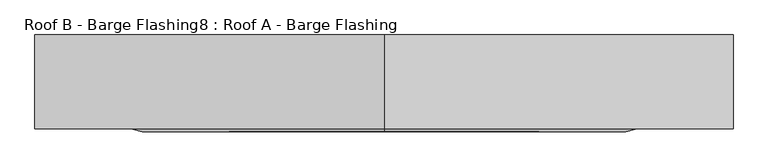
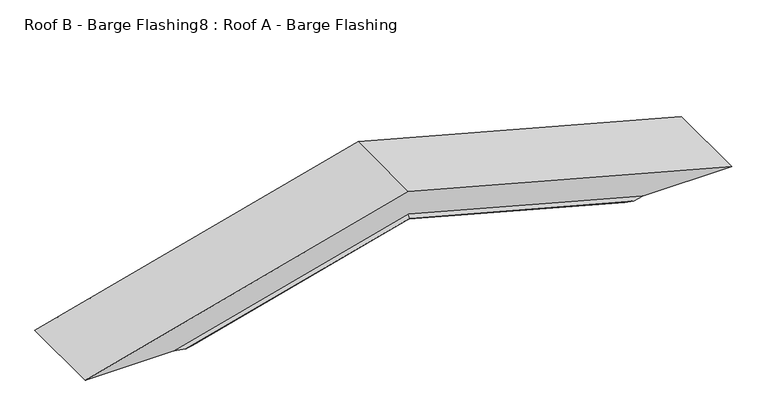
"""IFC4 building model written with IfcOpenShell, lengths in millimetres: proxy geometry, Roof B - Barge Flashing8 : Roof A - Barge Flashing."""

from ifc_helpers import new_model, si_unit, origin, place, context, project, spatial, faceted_brep, source, transform, mapped, element, save


def roof_b_barge_flashing8_roof_a_barge_flashing_5f2c9a0e(model_context):
    return source(origin(), model_context, "Body", "Brep", [
        faceted_brep([(-12104.8490993, -25282.9404307, 3545.332841), (-13773.1375384, -25282.9404307, 3992.349381), (-15441.4259775, -25282.9404307, 3545.332841), (-15261.7637738, -25282.9404307, 3545.332841), (-13773.1375384, -25282.9404307, 3944.2090386), (-12284.511303, -25282.9404307, 3545.332841), (-13773.1375384, -25281.9404307, 3944.2090386), (-12284.511303, -25281.9404307, 3545.332841), (-15261.7637738, -25281.9404307, 3545.332841), (-15445.2896808, -25281.9404307, 3545.332841), (-13773.1375384, -25281.9404307, 3993.3846572), (-12100.985396, -25281.9404307, 3545.332841), (-13773.1375384, -25732.0750445, 3993.3846572), (-12100.985396, -25732.0750445, 3545.332841), (-15445.2896808, -25732.0750445, 3545.332841), (-14986.4749133, -25732.0750445, 3545.332841), (-13773.1375384, -25732.0750445, 3870.4456108), (-12559.8001635, -25732.0750445, 3545.332841), (-13773.1375384, -25746.2171801, 3855.8045946), (-12614.4411796, -25746.2171801, 3545.332841), (-13773.1375384, -25735.6105784, 3844.8238325), (-12655.4219417, -25735.6105784, 3545.332841), (-13773.1375384, -25734.9034716, 3845.5558833), (-12652.6898909, -25734.9034716, 3545.332841), (-13773.1375384, -25744.8029666, 3855.8045946), (-12614.4411796, -25744.8029666, 3545.332841), (-13773.1375384, -25731.0750445, 3870.0167853), (-12561.4005618, -25731.0750445, 3545.332841), (-14984.874515, -25731.0750445, 3545.332841), (-15441.4259775, -25731.0750445, 3545.332841), (-13773.1375384, -25731.0750445, 3992.349381), (-12104.8490993, -25731.0750445, 3545.332841), (-14931.8338972, -25746.2171801, 3545.332841), (-14890.8531351, -25735.6105784, 3545.332841), (-14893.5851859, -25734.9034716, 3545.332841), (-14931.8338972, -25744.8029666, 3545.332841)], [[[0, 1, 2, 3, 4, 5]], [[4, 6, 7, 5]], [[7, 6, 8, 9, 10, 11]], [[10, 12, 13, 11]], [[13, 12, 14, 15, 16, 17]], [[16, 18, 19, 17]], [[18, 20, 21, 19]], [[20, 22, 23, 21]], [[22, 24, 25, 23]], [[24, 26, 27, 25]], [[27, 26, 28, 29, 30, 31]], [[30, 1, 0, 31]], [[6, 4, 3, 8]], [[12, 10, 9, 14]], [[18, 16, 15, 32]], [[20, 18, 32, 33]], [[22, 20, 33, 34]], [[24, 22, 34, 35]], [[26, 24, 35, 28]], [[1, 30, 29, 2]], [[0, 5, 7, 11, 13, 17, 19, 21, 23, 25, 27, 31]], [[3, 2, 29, 28, 35, 34, 33, 32, 15, 14, 9, 8]]]),
    ])


if __name__ == "__main__":
    model = new_model("IFC4")
    model_context = context("Model", 3, world=origin())
    ifc_project = project(units=[si_unit("LENGTHUNIT", "METRE", prefix="MILLI")], contexts=[model_context])
    site = spatial("IfcSite", under=ifc_project)
    building = spatial("IfcBuilding", under=site)
    placement = place(None, origin())
    roof_b_barge_flashing8_roof_a_barge_flashing_shape = roof_b_barge_flashing8_roof_a_barge_flashing_5f2c9a0e(model_context)
    element("IfcBuildingElementProxy", 1, Name="Roof B - Barge Flashing8 : Roof A - Barge Flashing", ObjectType="Roof B - Barge Flashing8 : Roof A - Barge Flashing", at=placement, inside=building, context=model_context, shape_type="MappedRepresentation", body=[
        mapped(roof_b_barge_flashing8_roof_a_barge_flashing_shape, transform((0.0, 0.0, 0.0), x_axis=(1.0, 0.0, 0.0), y_axis=(0.0, 1.0, 0.0), z_axis=(0.0, 0.0, 1.0))),
    ])
    save(model, "model.ifc")
